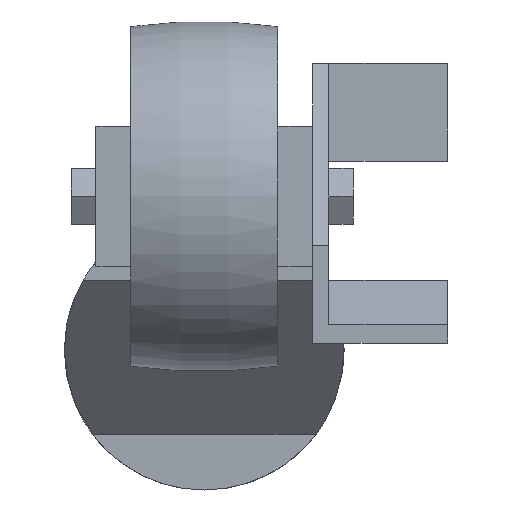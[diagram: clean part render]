
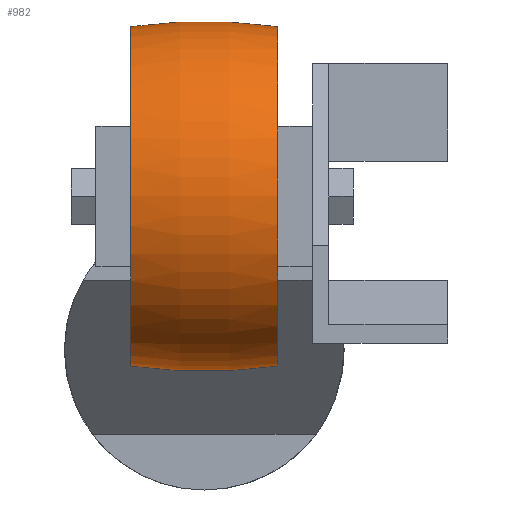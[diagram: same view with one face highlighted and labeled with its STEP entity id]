
A CAD part, front view. The second image highlights one B-rep face of the part: STEP entity #982.
In plain terms, the highlighted toroidal (fillet/blend) face has major radius 50 mm and minor radius 75 mm.
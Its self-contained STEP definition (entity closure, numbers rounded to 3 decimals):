
#5 = EDGE_CURVE ( 'NONE', #22, #93, #1460, .T. ) ;
#22 = VERTEX_POINT ( 'NONE', #531 ) ;
#65 = CIRCLE ( 'NONE', #1060, 24.261 ) ;
#93 = VERTEX_POINT ( 'NONE', #1084 ) ;
#161 = ORIENTED_EDGE ( 'NONE', *, *, #5, .F. ) ;
#167 = CARTESIAN_POINT ( 'NONE',  ( 0., -45., -28. ) ) ;
#194 = CARTESIAN_POINT ( 'NONE',  ( -10.5, -45., 46.261 ) ) ;
#205 = DIRECTION ( 'NONE',  ( -1., 0., 0. ) ) ;
#264 = DIRECTION ( 'NONE',  ( 0., 0., 1. ) ) ;
#306 = DIRECTION ( 'NONE',  ( 0., 0., -1. ) ) ;
#327 = EDGE_LOOP ( 'NONE', ( #161, #1432, #713, #422 ) ) ;
#408 = AXIS2_PLACEMENT_3D ( 'NONE', #1619, #709, #1100 ) ;
#422 = ORIENTED_EDGE ( 'NONE', *, *, #484, .F. ) ;
#427 = DIRECTION ( 'NONE',  ( -1., 0., 0. ) ) ;
#484 = EDGE_CURVE ( 'NONE', #93, #1179, #65, .T. ) ;
#494 = TOROIDAL_SURFACE ( 'NONE', #639, -50., 75. ) ;
#504 = AXIS2_PLACEMENT_3D ( 'NONE', #1495, #1365, #264 ) ;
#531 = CARTESIAN_POINT ( 'NONE',  ( 10.5, -45., -2.261 ) ) ;
#591 = DIRECTION ( 'NONE',  ( 0., 0., 1. ) ) ;
#639 = AXIS2_PLACEMENT_3D ( 'NONE', #1131, #205, #1663 ) ;
#709 = DIRECTION ( 'NONE',  ( -1., 0., 0. ) ) ;
#713 = ORIENTED_EDGE ( 'NONE', *, *, #1480, .T. ) ;
#837 = CIRCLE ( 'NONE', #1000, 75. ) ;
#858 = CARTESIAN_POINT ( 'NONE',  ( -10.5, -45., 22. ) ) ;
#982 = ADVANCED_FACE ( 'NONE', ( #1551 ), #494, .T. ) ;
#983 = DIRECTION ( 'NONE',  ( 0., -1., 0. ) ) ;
#1000 = AXIS2_PLACEMENT_3D ( 'NONE', #167, #983, #306 ) ;
#1060 = AXIS2_PLACEMENT_3D ( 'NONE', #858, #427, #591 ) ;
#1084 = CARTESIAN_POINT ( 'NONE',  ( -10.5, -45., -2.261 ) ) ;
#1100 = DIRECTION ( 'NONE',  ( 0., 0., 1. ) ) ;
#1131 = CARTESIAN_POINT ( 'NONE',  ( 0., -45., 22. ) ) ;
#1179 = VERTEX_POINT ( 'NONE', #194 ) ;
#1327 = VERTEX_POINT ( 'NONE', #1341 ) ;
#1341 = CARTESIAN_POINT ( 'NONE',  ( 10.5, -45., 46.261 ) ) ;
#1361 = CIRCLE ( 'NONE', #408, 24.261 ) ;
#1365 = DIRECTION ( 'NONE',  ( 0., 1., 0. ) ) ;
#1432 = ORIENTED_EDGE ( 'NONE', *, *, #1442, .T. ) ;
#1442 = EDGE_CURVE ( 'NONE', #22, #1327, #1361, .T. ) ;
#1460 = CIRCLE ( 'NONE', #504, 75. ) ;
#1480 = EDGE_CURVE ( 'NONE', #1327, #1179, #837, .T. ) ;
#1495 = CARTESIAN_POINT ( 'NONE',  ( 0., -45., 72. ) ) ;
#1551 = FACE_OUTER_BOUND ( 'NONE', #327, .T. ) ;
#1619 = CARTESIAN_POINT ( 'NONE',  ( 10.5, -45., 22. ) ) ;
#1663 = DIRECTION ( 'NONE',  ( 0., 0., 1. ) ) ;
